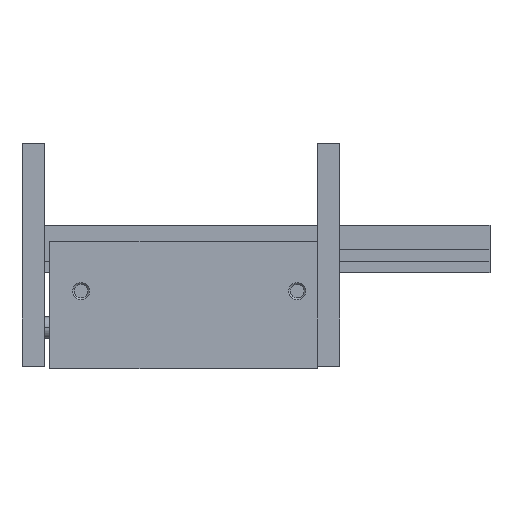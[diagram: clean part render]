
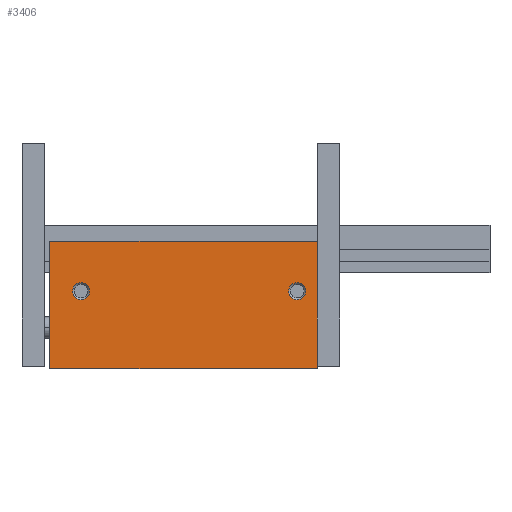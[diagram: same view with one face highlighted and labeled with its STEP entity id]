
A CAD part, top view. The second image highlights one B-rep face of the part: STEP entity #3406.
In plain terms, the highlighted planar face has unit normal (0, 0, 1) as drawn and (0, 0, -1) by its records, which use the part's own axes.
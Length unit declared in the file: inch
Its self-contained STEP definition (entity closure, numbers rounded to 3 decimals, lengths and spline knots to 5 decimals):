
#179 = EDGE_LOOP ( 'NONE', ( #8599, #449, #8033, #9769 ) ) ;
#187 = AXIS2_PLACEMENT_3D ( 'NONE', #8050, #9578, #4976 ) ;
#234 = CARTESIAN_POINT ( 'NONE',  ( 2.745, 0.153, -0.531 ) ) ;
#449 = ORIENTED_EDGE ( 'NONE', *, *, #3612, .F. ) ;
#472 = LINE ( 'NONE', #6385, #6627 ) ;
#621 = FACE_OUTER_BOUND ( 'NONE', #179, .T. ) ;
#631 = VERTEX_POINT ( 'NONE', #5687 ) ;
#765 = DIRECTION ( 'NONE',  ( 1., 0., 0. ) ) ;
#805 = EDGE_CURVE ( 'NONE', #3283, #9838, #6990, .T. ) ;
#815 = VERTEX_POINT ( 'NONE', #4837 ) ;
#963 = LINE ( 'NONE', #6552, #6648 ) ;
#985 = CARTESIAN_POINT ( 'NONE',  ( 2.555, 0.153, -0.531 ) ) ;
#1139 = VERTEX_POINT ( 'NONE', #8656 ) ;
#1164 = EDGE_CURVE ( 'NONE', #631, #9942, #472, .T. ) ;
#1312 = CIRCLE ( 'NONE', #6463, 0.095 ) ;
#1370 = ORIENTED_EDGE ( 'NONE', *, *, #8971, .T. ) ;
#1927 = CARTESIAN_POINT ( 'NONE',  ( 0.32, 0.153, -0.531 ) ) ;
#2297 = AXIS2_PLACEMENT_3D ( 'NONE', #7940, #3310, #8703 ) ;
#2614 = DIRECTION ( 'NONE',  ( 0., 0., 1. ) ) ;
#2655 = FACE_BOUND ( 'NONE', #5723, .T. ) ;
#2728 = LINE ( 'NONE', #9413, #4755 ) ;
#3269 = DIRECTION ( 'NONE',  ( 0., 1., 0. ) ) ;
#3283 = VERTEX_POINT ( 'NONE', #985 ) ;
#3310 = DIRECTION ( 'NONE',  ( 0., 0., 1. ) ) ;
#3406 = ADVANCED_FACE ( 'NONE', ( #4939, #621, #2655 ), #5721, .F. ) ;
#3612 = EDGE_CURVE ( 'NONE', #9942, #815, #963, .T. ) ;
#3669 = ORIENTED_EDGE ( 'NONE', *, *, #6051, .T. ) ;
#4017 = DIRECTION ( 'NONE',  ( -1., 0., 0. ) ) ;
#4111 = VERTEX_POINT ( 'NONE', #1927 ) ;
#4220 = DIRECTION ( 'NONE',  ( 0., 0., 1. ) ) ;
#4538 = VERTEX_POINT ( 'NONE', #5628 ) ;
#4755 = VECTOR ( 'NONE', #4017, 39.37008 ) ;
#4837 = CARTESIAN_POINT ( 'NONE',  ( 0., 0.715, -0.531 ) ) ;
#4939 = FACE_BOUND ( 'NONE', #7864, .T. ) ;
#4976 = DIRECTION ( 'NONE',  ( 1., 0., 0. ) ) ;
#4999 = AXIS2_PLACEMENT_3D ( 'NONE', #7248, #2614, #8001 ) ;
#5067 = CARTESIAN_POINT ( 'NONE',  ( 0., -0.715, -0.531 ) ) ;
#5280 = ORIENTED_EDGE ( 'NONE', *, *, #805, .T. ) ;
#5365 = DIRECTION ( 'NONE',  ( 0., 0., 1. ) ) ;
#5628 = CARTESIAN_POINT ( 'NONE',  ( 0.13, 0.153, -0.531 ) ) ;
#5634 = EDGE_CURVE ( 'NONE', #1139, #815, #6748, .T. ) ;
#5687 = CARTESIAN_POINT ( 'NONE',  ( 3., -0.715, -0.531 ) ) ;
#5721 = PLANE ( 'NONE',  #187 ) ;
#5723 = EDGE_LOOP ( 'NONE', ( #5280, #1370 ) ) ;
#5835 = DIRECTION ( 'NONE',  ( 0., 1., 0. ) ) ;
#6051 = EDGE_CURVE ( 'NONE', #4111, #4538, #1312, .T. ) ;
#6385 = CARTESIAN_POINT ( 'NONE',  ( 3., -0.715, -0.531 ) ) ;
#6463 = AXIS2_PLACEMENT_3D ( 'NONE', #8833, #4220, #9605 ) ;
#6465 = ORIENTED_EDGE ( 'NONE', *, *, #9263, .T. ) ;
#6531 = CARTESIAN_POINT ( 'NONE',  ( 3., 0.715, -0.531 ) ) ;
#6552 = CARTESIAN_POINT ( 'NONE',  ( 3., 0.715, -0.531 ) ) ;
#6627 = VECTOR ( 'NONE', #3269, 39.37008 ) ;
#6648 = VECTOR ( 'NONE', #7335, 39.37008 ) ;
#6748 = LINE ( 'NONE', #5067, #8513 ) ;
#6852 = EDGE_CURVE ( 'NONE', #631, #1139, #2728, .T. ) ;
#6990 = CIRCLE ( 'NONE', #2297, 0.095 ) ;
#7248 = CARTESIAN_POINT ( 'NONE',  ( 2.65, 0.153, -0.531 ) ) ;
#7335 = DIRECTION ( 'NONE',  ( -1., 0., 0. ) ) ;
#7537 = CIRCLE ( 'NONE', #4999, 0.095 ) ;
#7864 = EDGE_LOOP ( 'NONE', ( #6465, #3669 ) ) ;
#7940 = CARTESIAN_POINT ( 'NONE',  ( 2.65, 0.153, -0.531 ) ) ;
#8001 = DIRECTION ( 'NONE',  ( 1., 0., 0. ) ) ;
#8033 = ORIENTED_EDGE ( 'NONE', *, *, #1164, .F. ) ;
#8050 = CARTESIAN_POINT ( 'NONE',  ( 3., -0.715, -0.531 ) ) ;
#8412 = AXIS2_PLACEMENT_3D ( 'NONE', #9956, #5365, #765 ) ;
#8513 = VECTOR ( 'NONE', #5835, 39.37008 ) ;
#8599 = ORIENTED_EDGE ( 'NONE', *, *, #5634, .T. ) ;
#8656 = CARTESIAN_POINT ( 'NONE',  ( 0., -0.715, -0.531 ) ) ;
#8688 = CIRCLE ( 'NONE', #8412, 0.095 ) ;
#8703 = DIRECTION ( 'NONE',  ( 1., 0., 0. ) ) ;
#8833 = CARTESIAN_POINT ( 'NONE',  ( 0.225, 0.153, -0.531 ) ) ;
#8971 = EDGE_CURVE ( 'NONE', #9838, #3283, #7537, .T. ) ;
#9263 = EDGE_CURVE ( 'NONE', #4538, #4111, #8688, .T. ) ;
#9413 = CARTESIAN_POINT ( 'NONE',  ( 3., -0.715, -0.531 ) ) ;
#9578 = DIRECTION ( 'NONE',  ( 0., 0., 1. ) ) ;
#9605 = DIRECTION ( 'NONE',  ( 1., 0., 0. ) ) ;
#9769 = ORIENTED_EDGE ( 'NONE', *, *, #6852, .T. ) ;
#9838 = VERTEX_POINT ( 'NONE', #234 ) ;
#9942 = VERTEX_POINT ( 'NONE', #6531 ) ;
#9956 = CARTESIAN_POINT ( 'NONE',  ( 0.225, 0.153, -0.531 ) ) ;
